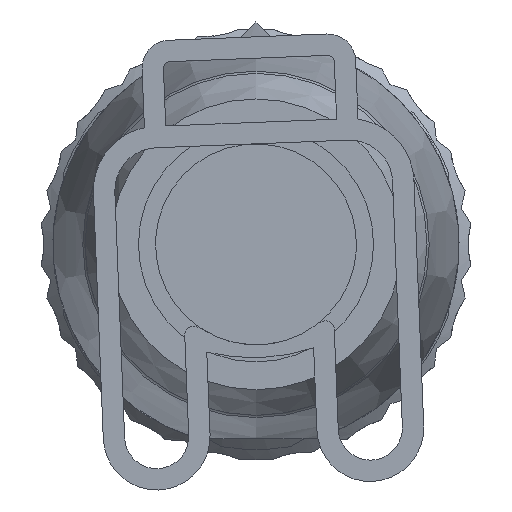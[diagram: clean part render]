
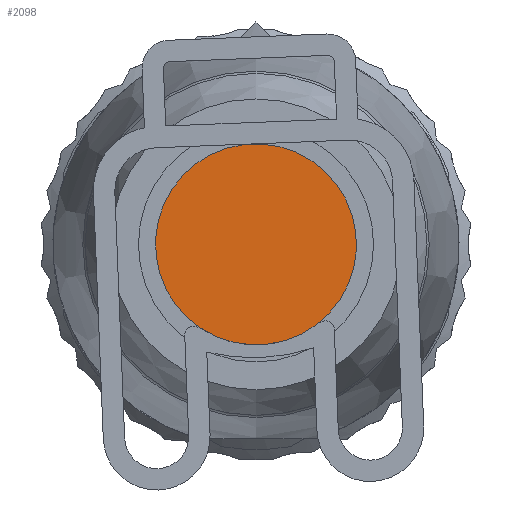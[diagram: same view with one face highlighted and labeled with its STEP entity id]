
A CAD part, front view. The second image highlights one B-rep face of the part: STEP entity #2098.
In plain terms, the highlighted planar face has unit normal (0, -1, 0).
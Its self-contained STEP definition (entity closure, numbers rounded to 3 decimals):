
#2082=CARTESIAN_POINT('',(0.0,-5.082,6.41));
#2083=DIRECTION('',(0.0,1.0,0.0));
#2084=DIRECTION('',(0.0,0.0,1.0));
#2085=AXIS2_PLACEMENT_3D('',#2082,#2083,#2084);
#2086=PLANE('',#2085);
#2087=CARTESIAN_POINT('',(-2.346,-5.082,0.131));
#2088=VERTEX_POINT('',#2087);
#2089=CARTESIAN_POINT('',(0.,-5.082,0.));
#2090=DIRECTION('',(0.,1.0,0.));
#2091=DIRECTION('',(0.998,0.,-0.056));
#2092=AXIS2_PLACEMENT_3D('',#2089,#2090,#2091);
#2093=CIRCLE('',#2092,2.35);
#2094=EDGE_CURVE('',#2088,#2088,#2093,.T.);
#2095=ORIENTED_EDGE('',*,*,#2094,.F.);
#2096=EDGE_LOOP('',(#2095));
#2097=FACE_OUTER_BOUND('',#2096,.T.);
#2098=ADVANCED_FACE('',(#2097),#2086,.F.);
